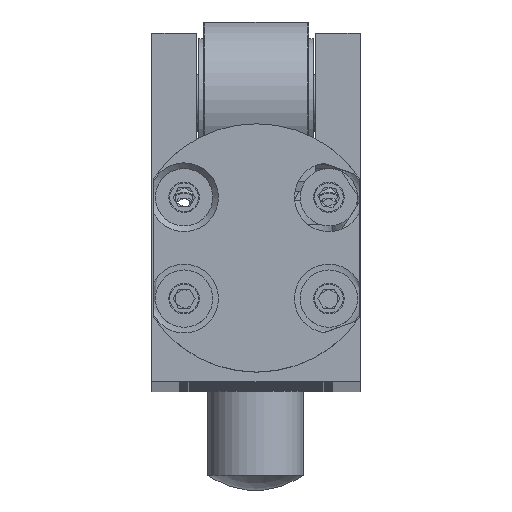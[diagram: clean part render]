
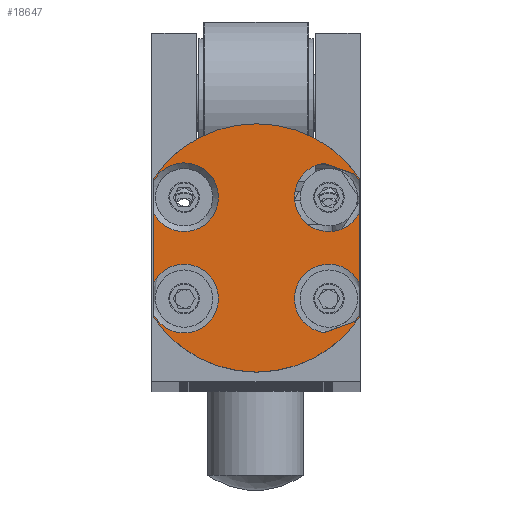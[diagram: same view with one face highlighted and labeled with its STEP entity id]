
A CAD part, top view. The second image highlights one B-rep face of the part: STEP entity #18647.
In plain terms, the highlighted planar face has unit normal (0, 0, 1).
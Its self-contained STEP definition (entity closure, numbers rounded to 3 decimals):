
#903=PLANE('',#20959);
#1529=LINE('',#34579,#2256);
#1530=LINE('',#34582,#2257);
#1531=LINE('',#34586,#2258);
#1532=LINE('',#34590,#2259);
#1533=LINE('',#34594,#2260);
#1534=LINE('',#34598,#2261);
#1535=LINE('',#34602,#2262);
#1536=LINE('',#34605,#2263);
#2256=VECTOR('',#26187,10.);
#2257=VECTOR('',#26190,10.);
#2258=VECTOR('',#26193,10.);
#2259=VECTOR('',#26196,10.);
#2260=VECTOR('',#26199,10.);
#2261=VECTOR('',#26202,10.);
#2262=VECTOR('',#26205,10.);
#2263=VECTOR('',#26208,10.);
#3464=FACE_OUTER_BOUND('',#4599,.T.);
#4599=EDGE_LOOP('',(#15315,#15316,#15317,#15318,#15319,#15320,#15321,#15322,
#15323,#15324,#15325,#15326,#15327,#15328,#15329,#15330));
#6257=CIRCLE('',#20953,3.6);
#6260=CIRCLE('',#20956,3.6);
#6261=CIRCLE('',#20960,3.6);
#6262=CIRCLE('',#20961,3.6);
#6263=CIRCLE('',#20962,13.);
#6264=CIRCLE('',#20963,3.6);
#6265=CIRCLE('',#20964,3.6);
#6266=CIRCLE('',#20965,13.);
#8187=VERTEX_POINT('',#34555);
#8188=VERTEX_POINT('',#34556);
#8189=VERTEX_POINT('',#34560);
#8193=VERTEX_POINT('',#34571);
#8194=VERTEX_POINT('',#34581);
#8195=VERTEX_POINT('',#34583);
#8196=VERTEX_POINT('',#34585);
#8197=VERTEX_POINT('',#34587);
#8198=VERTEX_POINT('',#34589);
#8199=VERTEX_POINT('',#34591);
#8200=VERTEX_POINT('',#34593);
#8201=VERTEX_POINT('',#34595);
#8202=VERTEX_POINT('',#34597);
#8203=VERTEX_POINT('',#34599);
#8204=VERTEX_POINT('',#34601);
#8205=VERTEX_POINT('',#34603);
#10716=EDGE_CURVE('',#8189,#8187,#6257,.T.);
#10722=EDGE_CURVE('',#8188,#8193,#6260,.T.);
#10724=EDGE_CURVE('',#8193,#8189,#1529,.T.);
#10725=EDGE_CURVE('',#8187,#8194,#1530,.T.);
#10726=EDGE_CURVE('',#8194,#8195,#6261,.T.);
#10727=EDGE_CURVE('',#8195,#8196,#1531,.T.);
#10728=EDGE_CURVE('',#8196,#8197,#6262,.T.);
#10729=EDGE_CURVE('',#8197,#8198,#1532,.T.);
#10730=EDGE_CURVE('',#8199,#8198,#6263,.T.);
#10731=EDGE_CURVE('',#8199,#8200,#1533,.T.);
#10732=EDGE_CURVE('',#8200,#8201,#6264,.T.);
#10733=EDGE_CURVE('',#8201,#8202,#1534,.T.);
#10734=EDGE_CURVE('',#8202,#8203,#6265,.T.);
#10735=EDGE_CURVE('',#8203,#8204,#1535,.T.);
#10736=EDGE_CURVE('',#8205,#8204,#6266,.T.);
#10737=EDGE_CURVE('',#8205,#8188,#1536,.T.);
#15315=ORIENTED_EDGE('',*,*,#10722,.T.);
#15316=ORIENTED_EDGE('',*,*,#10724,.T.);
#15317=ORIENTED_EDGE('',*,*,#10716,.T.);
#15318=ORIENTED_EDGE('',*,*,#10725,.T.);
#15319=ORIENTED_EDGE('',*,*,#10726,.T.);
#15320=ORIENTED_EDGE('',*,*,#10727,.T.);
#15321=ORIENTED_EDGE('',*,*,#10728,.T.);
#15322=ORIENTED_EDGE('',*,*,#10729,.T.);
#15323=ORIENTED_EDGE('',*,*,#10730,.F.);
#15324=ORIENTED_EDGE('',*,*,#10731,.T.);
#15325=ORIENTED_EDGE('',*,*,#10732,.T.);
#15326=ORIENTED_EDGE('',*,*,#10733,.T.);
#15327=ORIENTED_EDGE('',*,*,#10734,.T.);
#15328=ORIENTED_EDGE('',*,*,#10735,.T.);
#15329=ORIENTED_EDGE('',*,*,#10736,.F.);
#15330=ORIENTED_EDGE('',*,*,#10737,.T.);
#18647=ADVANCED_FACE('',(#3464),#903,.T.);
#20953=AXIS2_PLACEMENT_3D('',#34561,#26173,#26174);
#20956=AXIS2_PLACEMENT_3D('',#34575,#26180,#26181);
#20959=AXIS2_PLACEMENT_3D('',#34580,#26188,#26189);
#20960=AXIS2_PLACEMENT_3D('',#34584,#26191,#26192);
#20961=AXIS2_PLACEMENT_3D('',#34588,#26194,#26195);
#20962=AXIS2_PLACEMENT_3D('',#34592,#26197,#26198);
#20963=AXIS2_PLACEMENT_3D('',#34596,#26200,#26201);
#20964=AXIS2_PLACEMENT_3D('',#34600,#26203,#26204);
#20965=AXIS2_PLACEMENT_3D('',#34604,#26206,#26207);
#26173=DIRECTION('center_axis',(0.,0.,
-1.));
#26174=DIRECTION('ref_axis',(-0.342,0.94,0.));
#26180=DIRECTION('center_axis',(0.,0.,
-1.));
#26181=DIRECTION('ref_axis',(-0.342,0.94,0.));
#26187=DIRECTION('',(-0.94,-0.342,0.));
#26188=DIRECTION('center_axis',(0.,0.,
1.));
#26189=DIRECTION('ref_axis',(1.,0.,0.));
#26190=DIRECTION('',(0.,1.,0.));
#26191=DIRECTION('center_axis',(0.,0.,
-1.));
#26192=DIRECTION('ref_axis',(-0.342,-0.94,0.));
#26193=DIRECTION('',(0.94,-0.342,0.));
#26194=DIRECTION('center_axis',(0.,0.,
-1.));
#26195=DIRECTION('ref_axis',(-0.342,-0.94,0.));
#26196=DIRECTION('',(0.,1.,0.));
#26197=DIRECTION('center_axis',(0.,0.,
-1.));
#26198=DIRECTION('ref_axis',(0.,1.,0.));
#26199=DIRECTION('',(0.,-1.,0.));
#26200=DIRECTION('center_axis',(0.,0.,
-1.));
#26201=DIRECTION('ref_axis',(1.,0.,0.));
#26202=DIRECTION('',(0.,-1.,0.));
#26203=DIRECTION('center_axis',(0.,0.,
-1.));
#26204=DIRECTION('ref_axis',(1.,0.,0.));
#26205=DIRECTION('',(0.,-1.,0.));
#26206=DIRECTION('center_axis',(0.,0.,
-1.));
#26207=DIRECTION('ref_axis',(0.,1.,0.));
#26208=DIRECTION('',(0.,1.,0.));
#34555=CARTESIAN_POINT('',(10.8,-7.855,306.));
#34556=CARTESIAN_POINT('',(10.8,-11.256,306.));
#34560=CARTESIAN_POINT('',(7.114,-13.119,306.));
#34561=CARTESIAN_POINT('Origin',(7.627,-9.556,306.));
#34571=CARTESIAN_POINT('',(10.311,-11.955,306.));
#34575=CARTESIAN_POINT('Origin',(7.627,-9.556,306.));
#34579=CARTESIAN_POINT('',(8.206,-12.721,306.));
#34580=CARTESIAN_POINT('Origin',(0.05,2.25,306.));
#34581=CARTESIAN_POINT('',(10.8,-0.645,306.));
#34582=CARTESIAN_POINT('',(10.8,-4.655,306.));
#34583=CARTESIAN_POINT('',(7.114,4.619,306.));
#34584=CARTESIAN_POINT('Origin',(7.627,1.056,306.));
#34585=CARTESIAN_POINT('',(10.311,3.455,306.));
#34586=CARTESIAN_POINT('',(6.117,4.982,306.));
#34587=CARTESIAN_POINT('',(10.8,2.756,306.));
#34588=CARTESIAN_POINT('Origin',(7.627,1.056,306.));
#34589=CARTESIAN_POINT('',(10.8,3.06,306.));
#34590=CARTESIAN_POINT('',(10.8,-4.655,306.));
#34591=CARTESIAN_POINT('',(-10.7,3.06,306.));
#34592=CARTESIAN_POINT('Origin',(0.05,-4.25,306.));
#34593=CARTESIAN_POINT('',(-10.7,2.756,306.));
#34594=CARTESIAN_POINT('',(-10.7,2.655,306.));
#34595=CARTESIAN_POINT('',(-10.7,-0.645,306.));
#34596=CARTESIAN_POINT('Origin',(-7.527,1.056,306.));
#34597=CARTESIAN_POINT('',(-10.7,-7.855,306.));
#34598=CARTESIAN_POINT('',(-10.7,2.655,306.));
#34599=CARTESIAN_POINT('',(-10.7,-11.256,306.));
#34600=CARTESIAN_POINT('Origin',(-7.527,-9.556,306.));
#34601=CARTESIAN_POINT('',(-10.7,-11.56,306.));
#34602=CARTESIAN_POINT('',(-10.7,2.655,306.));
#34603=CARTESIAN_POINT('',(10.8,-11.56,306.));
#34604=CARTESIAN_POINT('Origin',(0.05,-4.25,306.));
#34605=CARTESIAN_POINT('',(10.8,-4.655,306.));
